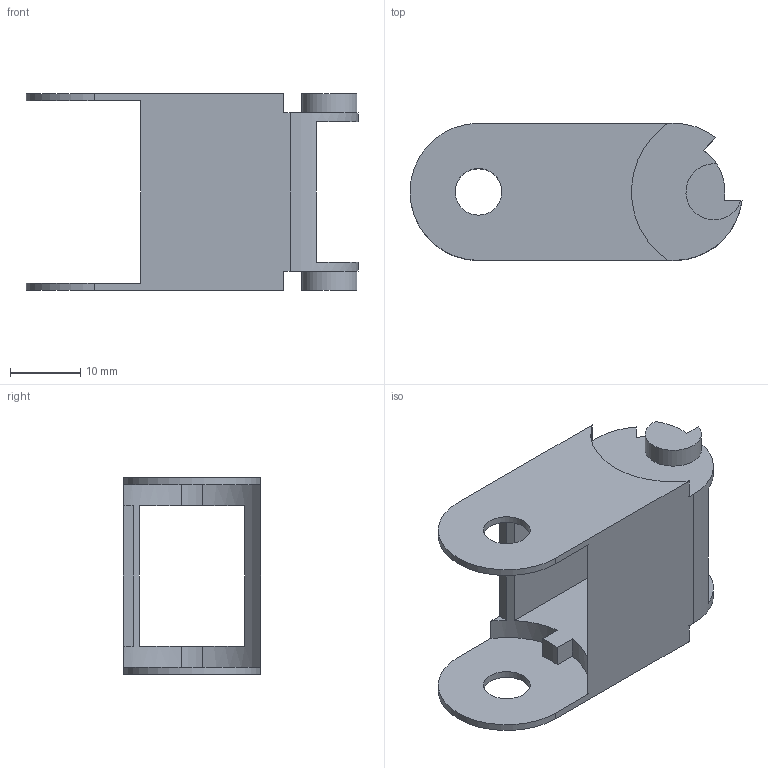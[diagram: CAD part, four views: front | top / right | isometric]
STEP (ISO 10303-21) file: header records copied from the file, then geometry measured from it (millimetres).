
FILE_DESCRIPTION(('STEP AP203'), '1');
FILE_NAME('Êàáåëü-êàíàë ïëàñòèêîâûé J15BF.1.20N-R28', '2022-05-04T13:04:28', ('Viktor2'), (''), 'ASCON STEP Converter 1.6', 'ASCON Math Kernel', '');
FILE_SCHEMA(('CONFIG_CONTROL_DESIGN'));
Length unit declared in the file: millimetre
Bounding box: 47.23 x 19.5 x 28 mm (x, y, z)
Volume: 5280.8 mm3; surface area: 5750.4 mm2
Topology: 1 solids, 1 shells, 46 faces, 138 edges, 92 vertices
Faces by surface type: plane 29, cylinder 17
Full cylindrical faces by diameter (mm): 6.64 x2
Entity records: 2017 total; most frequent: DIRECTION 282, CARTESIAN_POINT 279, ORIENTED_EDGE 272, EDGE_CURVE 136, AXIS2_PLACEMENT_3D 95, VERTEX_POINT 92, LINE 92, VECTOR 92
